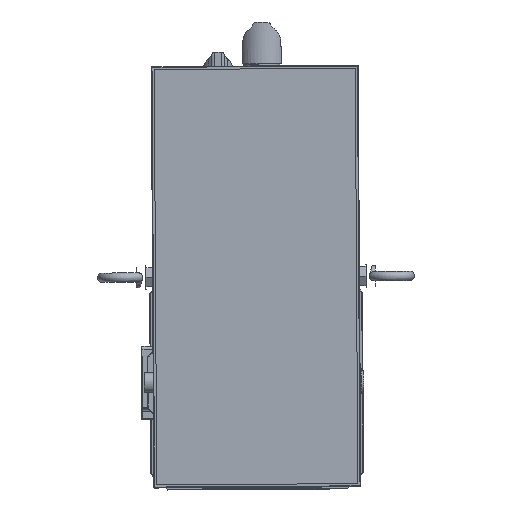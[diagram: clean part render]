
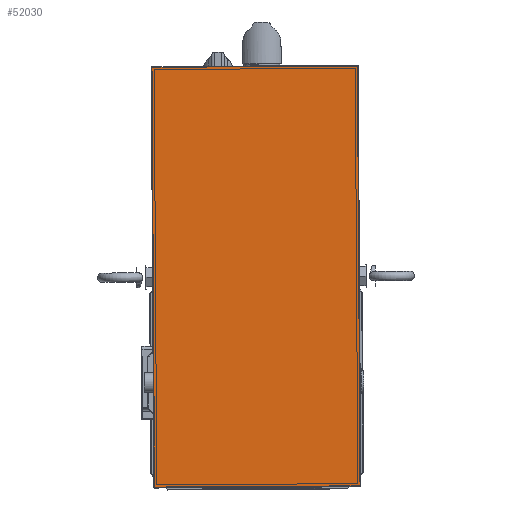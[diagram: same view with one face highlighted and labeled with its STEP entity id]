
A CAD part, top view. The second image highlights one B-rep face of the part: STEP entity #52030.
In plain terms, the highlighted planar face has unit normal (0, 0, 1).
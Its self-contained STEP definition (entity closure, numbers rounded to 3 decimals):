
#1991=PLANE('',#56717);
#4813=LINE('',#98143,#8493);
#4814=LINE('',#98145,#8494);
#4815=LINE('',#98147,#8495);
#4816=LINE('',#98148,#8496);
#8493=VECTOR('',#68487,10.);
#8494=VECTOR('',#68488,10.);
#8495=VECTOR('',#68489,10.);
#8496=VECTOR('',#68490,10.);
#12634=FACE_OUTER_BOUND('',#15764,.T.);
#15764=EDGE_LOOP('',(#42496,#42497,#42498,#42499));
#23629=VERTEX_POINT('',#98141);
#23630=VERTEX_POINT('',#98142);
#23631=VERTEX_POINT('',#98144);
#23632=VERTEX_POINT('',#98146);
#30206=EDGE_CURVE('',#23629,#23630,#4813,.T.);
#30207=EDGE_CURVE('',#23631,#23629,#4814,.T.);
#30208=EDGE_CURVE('',#23632,#23631,#4815,.T.);
#30209=EDGE_CURVE('',#23630,#23632,#4816,.T.);
#42496=ORIENTED_EDGE('',*,*,#30206,.F.);
#42497=ORIENTED_EDGE('',*,*,#30207,.F.);
#42498=ORIENTED_EDGE('',*,*,#30208,.F.);
#42499=ORIENTED_EDGE('',*,*,#30209,.F.);
#52030=ADVANCED_FACE('',(#12634),#1991,.T.);
#56717=AXIS2_PLACEMENT_3D('',#98140,#68485,#68486);
#68485=DIRECTION('center_axis',(0.,0.,
1.));
#68486=DIRECTION('ref_axis',(0.006,-1.,0.));
#68487=DIRECTION('',(-0.006,1.,0.));
#68488=DIRECTION('',(-1.,-0.006,0.));
#68489=DIRECTION('',(0.006,-1.,0.));
#68490=DIRECTION('',(1.,0.006,0.));
#98140=CARTESIAN_POINT('Origin',(68.928,-69.579,611.));
#98141=CARTESIAN_POINT('',(-69.56,-71.928,611.));
#98142=CARTESIAN_POINT('',(-71.314,214.067,611.));
#98143=CARTESIAN_POINT('',(-69.569,-70.428,611.));
#98144=CARTESIAN_POINT('',(70.437,-71.069,611.));
#98145=CARTESIAN_POINT('',(34.688,-71.289,611.));
#98146=CARTESIAN_POINT('',(68.683,214.925,611.));
#98147=CARTESIAN_POINT('',(70.428,-69.569,611.));
#98148=CARTESIAN_POINT('',(32.934,214.706,611.));
